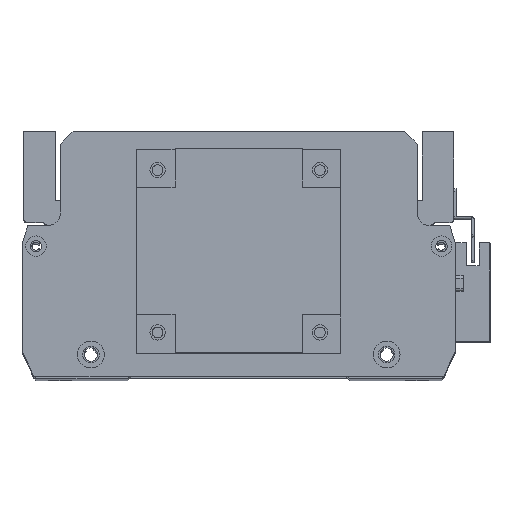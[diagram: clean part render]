
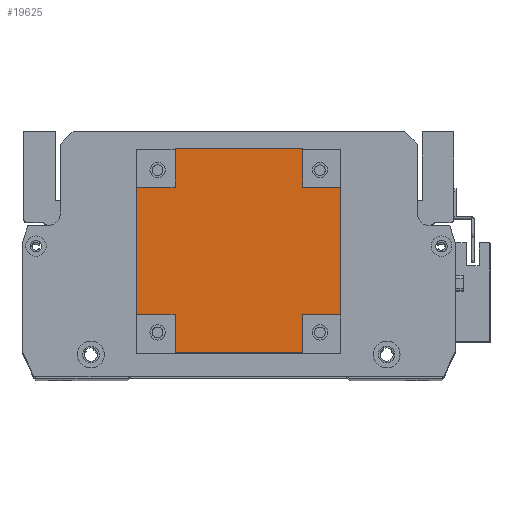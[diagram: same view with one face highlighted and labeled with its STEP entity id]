
A CAD part, top view. The second image highlights one B-rep face of the part: STEP entity #19625.
In plain terms, the highlighted planar face has unit normal (0, 0, 1).
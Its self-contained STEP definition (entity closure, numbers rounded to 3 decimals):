
#287 = LINE ( 'NONE', #22377, #4201 ) ;
#556 = DIRECTION ( 'NONE',  ( 1., 0., 0. ) ) ;
#657 = VECTOR ( 'NONE', #4830, 1000. ) ;
#818 = DIRECTION ( 'NONE',  ( 0., 1., 0. ) ) ;
#1258 = CARTESIAN_POINT ( 'NONE',  ( 65., 65., 101.5 ) ) ;
#1841 = CARTESIAN_POINT ( 'NONE',  ( 15., 15., 101.5 ) ) ;
#1922 = ORIENTED_EDGE ( 'NONE', *, *, #6002, .T. ) ;
#2202 = EDGE_CURVE ( 'NONE', #20120, #16683, #20537, .T. ) ;
#3159 = LINE ( 'NONE', #12326, #12166 ) ;
#3240 = EDGE_CURVE ( 'NONE', #20120, #24461, #3462, .T. ) ;
#3434 = ORIENTED_EDGE ( 'NONE', *, *, #5669, .F. ) ;
#3462 = LINE ( 'NONE', #7321, #7955 ) ;
#3867 = EDGE_CURVE ( 'NONE', #6633, #19124, #15108, .T. ) ;
#4201 = VECTOR ( 'NONE', #5208, 1000. ) ;
#4344 = VECTOR ( 'NONE', #10077, 1000. ) ;
#4830 = DIRECTION ( 'NONE',  ( 1., 0., 0. ) ) ;
#4847 = LINE ( 'NONE', #24773, #9313 ) ;
#5208 = DIRECTION ( 'NONE',  ( -1., 0., 0. ) ) ;
#5669 = EDGE_CURVE ( 'NONE', #18771, #16683, #12653, .T. ) ;
#5721 = EDGE_CURVE ( 'NONE', #17473, #18771, #5757, .T. ) ;
#5757 = LINE ( 'NONE', #12462, #657 ) ;
#5828 = VERTEX_POINT ( 'NONE', #14703 ) ;
#6002 = EDGE_CURVE ( 'NONE', #17473, #21355, #4847, .T. ) ;
#6521 = CARTESIAN_POINT ( 'NONE',  ( 15., 80., 101.5 ) ) ;
#6633 = VERTEX_POINT ( 'NONE', #15822 ) ;
#6803 = AXIS2_PLACEMENT_3D ( 'NONE', #20512, #7247, #20592 ) ;
#7247 = DIRECTION ( 'NONE',  ( 0., 0., -1. ) ) ;
#7321 = CARTESIAN_POINT ( 'NONE',  ( 65., 80., 101.5 ) ) ;
#7667 = VERTEX_POINT ( 'NONE', #16732 ) ;
#7955 = VECTOR ( 'NONE', #18847, 1000. ) ;
#8052 = CARTESIAN_POINT ( 'NONE',  ( 15., 65., 101.5 ) ) ;
#8169 = FACE_OUTER_BOUND ( 'NONE', #18609, .T. ) ;
#8599 = CARTESIAN_POINT ( 'NONE',  ( 15., 80., 101.5 ) ) ;
#9313 = VECTOR ( 'NONE', #20909, 1000. ) ;
#9368 = CARTESIAN_POINT ( 'NONE',  ( 80., 15., 101.5 ) ) ;
#9560 = EDGE_CURVE ( 'NONE', #10751, #5828, #13367, .T. ) ;
#9601 = EDGE_CURVE ( 'NONE', #10751, #22115, #3159, .T. ) ;
#9970 = DIRECTION ( 'NONE',  ( -1., 0., 0. ) ) ;
#10077 = DIRECTION ( 'NONE',  ( 0., 1., 0. ) ) ;
#10312 = DIRECTION ( 'NONE',  ( -1., 0., 0. ) ) ;
#10751 = VERTEX_POINT ( 'NONE', #9368 ) ;
#10758 = CARTESIAN_POINT ( 'NONE',  ( 65., 80., 101.5 ) ) ;
#10941 = PLANE ( 'NONE',  #6803 ) ;
#11409 = EDGE_CURVE ( 'NONE', #24461, #22115, #18914, .T. ) ;
#11743 = CARTESIAN_POINT ( 'NONE',  ( 65., 0., 101.5 ) ) ;
#12050 = VECTOR ( 'NONE', #818, 1000. ) ;
#12095 = LINE ( 'NONE', #23445, #22202 ) ;
#12166 = VECTOR ( 'NONE', #14260, 1000. ) ;
#12326 = CARTESIAN_POINT ( 'NONE',  ( 80., 0., 101.5 ) ) ;
#12462 = CARTESIAN_POINT ( 'NONE',  ( 0., 65., 101.5 ) ) ;
#12653 = LINE ( 'NONE', #6521, #12050 ) ;
#13367 = LINE ( 'NONE', #19823, #22873 ) ;
#13421 = ORIENTED_EDGE ( 'NONE', *, *, #5721, .F. ) ;
#13601 = ORIENTED_EDGE ( 'NONE', *, *, #18422, .T. ) ;
#14013 = EDGE_CURVE ( 'NONE', #5828, #7667, #14590, .T. ) ;
#14260 = DIRECTION ( 'NONE',  ( 0., 1., 0. ) ) ;
#14590 = LINE ( 'NONE', #11743, #19652 ) ;
#14703 = CARTESIAN_POINT ( 'NONE',  ( 65., 15., 101.5 ) ) ;
#14831 = CARTESIAN_POINT ( 'NONE',  ( 0., 15., 101.5 ) ) ;
#15108 = LINE ( 'NONE', #17660, #4344 ) ;
#15290 = DIRECTION ( 'NONE',  ( 1., 0., 0. ) ) ;
#15501 = VECTOR ( 'NONE', #9970, 1000. ) ;
#15589 = DIRECTION ( 'NONE',  ( 0., -1., 0. ) ) ;
#15822 = CARTESIAN_POINT ( 'NONE',  ( 15., 0., 101.5 ) ) ;
#16607 = ORIENTED_EDGE ( 'NONE', *, *, #21342, .F. ) ;
#16668 = ORIENTED_EDGE ( 'NONE', *, *, #9601, .T. ) ;
#16683 = VERTEX_POINT ( 'NONE', #8599 ) ;
#16732 = CARTESIAN_POINT ( 'NONE',  ( 65., 0., 101.5 ) ) ;
#16742 = CARTESIAN_POINT ( 'NONE',  ( 0., 65., 101.5 ) ) ;
#16914 = ORIENTED_EDGE ( 'NONE', *, *, #3240, .F. ) ;
#17473 = VERTEX_POINT ( 'NONE', #16742 ) ;
#17660 = CARTESIAN_POINT ( 'NONE',  ( 15., 0., 101.5 ) ) ;
#18422 = EDGE_CURVE ( 'NONE', #6633, #7667, #12095, .T. ) ;
#18609 = EDGE_LOOP ( 'NONE', ( #20152, #3434, #13421, #1922, #16607, #20771, #13601, #23164, #23218, #16668, #23773, #16914 ) ) ;
#18771 = VERTEX_POINT ( 'NONE', #8052 ) ;
#18847 = DIRECTION ( 'NONE',  ( 0., -1., 0. ) ) ;
#18914 = LINE ( 'NONE', #22841, #23389 ) ;
#19124 = VERTEX_POINT ( 'NONE', #1841 ) ;
#19625 = ADVANCED_FACE ( 'NONE', ( #8169 ), #10941, .F. ) ;
#19652 = VECTOR ( 'NONE', #15589, 1000. ) ;
#19823 = CARTESIAN_POINT ( 'NONE',  ( 80., 15., 101.5 ) ) ;
#20120 = VERTEX_POINT ( 'NONE', #10758 ) ;
#20152 = ORIENTED_EDGE ( 'NONE', *, *, #2202, .T. ) ;
#20512 = CARTESIAN_POINT ( 'NONE',  ( 0., 0., 101.5 ) ) ;
#20537 = LINE ( 'NONE', #23320, #15501 ) ;
#20592 = DIRECTION ( 'NONE',  ( -1., 0., 0. ) ) ;
#20771 = ORIENTED_EDGE ( 'NONE', *, *, #3867, .F. ) ;
#20909 = DIRECTION ( 'NONE',  ( 0., -1., 0. ) ) ;
#21342 = EDGE_CURVE ( 'NONE', #19124, #21355, #287, .T. ) ;
#21355 = VERTEX_POINT ( 'NONE', #14831 ) ;
#22115 = VERTEX_POINT ( 'NONE', #23296 ) ;
#22202 = VECTOR ( 'NONE', #556, 1000. ) ;
#22377 = CARTESIAN_POINT ( 'NONE',  ( 0., 15., 101.5 ) ) ;
#22841 = CARTESIAN_POINT ( 'NONE',  ( 65., 65., 101.5 ) ) ;
#22873 = VECTOR ( 'NONE', #10312, 1000. ) ;
#23164 = ORIENTED_EDGE ( 'NONE', *, *, #14013, .F. ) ;
#23218 = ORIENTED_EDGE ( 'NONE', *, *, #9560, .F. ) ;
#23296 = CARTESIAN_POINT ( 'NONE',  ( 80., 65., 101.5 ) ) ;
#23320 = CARTESIAN_POINT ( 'NONE',  ( 0., 80., 101.5 ) ) ;
#23389 = VECTOR ( 'NONE', #15290, 1000. ) ;
#23445 = CARTESIAN_POINT ( 'NONE',  ( 0., 0., 101.5 ) ) ;
#23773 = ORIENTED_EDGE ( 'NONE', *, *, #11409, .F. ) ;
#24461 = VERTEX_POINT ( 'NONE', #1258 ) ;
#24773 = CARTESIAN_POINT ( 'NONE',  ( 0., 0., 101.5 ) ) ;
